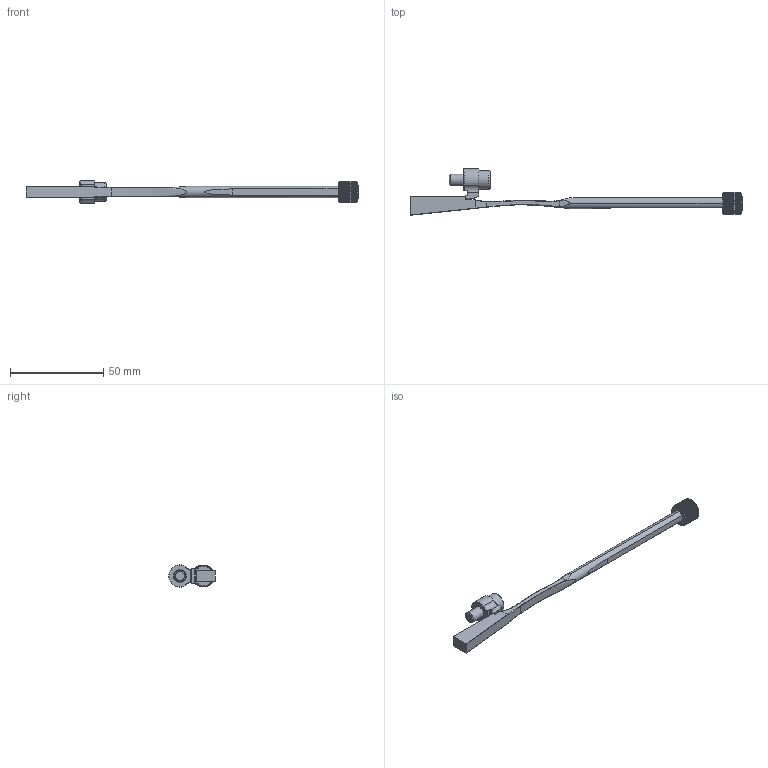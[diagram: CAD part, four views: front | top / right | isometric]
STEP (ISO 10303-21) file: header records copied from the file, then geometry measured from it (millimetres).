
FILE_DESCRIPTION (( 'STEP AP214' ), '1' );
FILE_NAME ('PX060630-175.STEP', '2020-02-10T09:05:35', ( '' ), ( '' ), 'SwSTEP 2.0', 'SolidWorks 2018', '' );
FILE_SCHEMA (( 'AUTOMOTIVE_DESIGN' ));
Length unit declared in the file: millimetre
Products named in the file (7): JT ﾘ6X1,5; 9TP0610HX-1; 9PX-TOPE; 9PX060630-175 cerrada; 9TP0610HX; 1DIN912616_DIN 912 M6 x 16 --- 16C; PX060630-175
Assembly tree (6 placements, depth 3):
  PX060630-175
    9PX060630-175 cerrada
    9PX-TOPE
    1DIN912616_DIN 912 M6 x 16 --- 16C
    9TP0610HX
      9TP0610HX-1
      JT ﾘ6X1,5
Bounding box: 178.4 x 25 x 12 mm (x, y, z)
Volume: 7423.5 mm3; surface area: 6158.5 mm2
Topology: 5 solids, 5 shells, 829 faces, 2284 edges, 1496 vertices
Faces by surface type: plane 317, bspline 289, cylinder 177, cone 28, torus 14, sphere 4
Entity records: 46059 total; most frequent: CARTESIAN_POINT 23545, ORIENTED_EDGE 4556, DIRECTION 2424, EDGE_CURVE 2278, VERTEX_POINT 1496, B_SPLINE_CURVE_WITH_KNOTS 1299, AXIS2_PLACEMENT_3D 912, EDGE_LOOP 872
